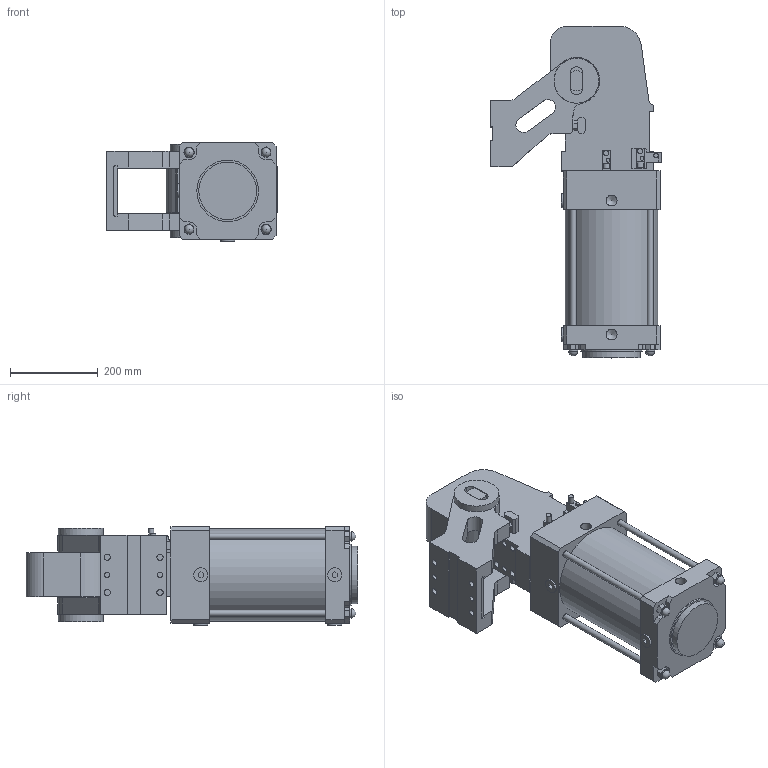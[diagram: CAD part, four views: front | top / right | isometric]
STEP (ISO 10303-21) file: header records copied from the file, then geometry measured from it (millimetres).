
FILE_DESCRIPTION(/* description */ (''),/* implementation_level */ '2;1');
FILE_NAME(/* name */ 'S:\Tom\INVENTOR FILES\AUTOMOTIVE\VEP\DUMP UNITS\C05.P015 RFM.2-RF.2\C05.P015 RFM.2-RF.2\RFM200\SATs\XPUZ200.2-129-1-ESL-P-G-X.stp',/* time_stamp */ '2018-07-29T18:18:26+01:00',/* author */ ('carl'),/* organization */ (''),/* preprocessor_version */ 'ST-DEVELOPER v16.13',/* originating_system */ 'Autodesk Inventor 2018',/* authorisation */ '');
FILE_SCHEMA (('AUTOMOTIVE_DESIGN { 1 0 10303 214 3 1 1 }'));
Length unit declared in the file: millimetre
Products named in the file (11): XPUZ200.2-129-1-ESL-P-G-X_TOP; XPUZ200; XPUZ200_1; XPUZ200_2; XPUZ200_3; XPUZ200_4; XPUZ200_5; XPUZ200_6; XPUZ200_7; XPUZ200_8; XPUZ200_9
Assembly tree (10 placements, depth 2):
  XPUZ200.2-129-1-ESL-P-G-X_TOP
    XPUZ200
    XPUZ200_1
    XPUZ200_2
    XPUZ200_3
    XPUZ200_4
    XPUZ200_5
    XPUZ200_6
    XPUZ200_7
    XPUZ200_8
    XPUZ200_9
Bounding box: 388 x 754.5 x 225 mm (x, y, z)
Volume: 25977209.9 mm3; surface area: 1069848.8 mm2
Topology: 10 solids, 10 shells, 412 faces, 1026 edges, 675 vertices
Faces by surface type: plane 284, cylinder 106, cone 18, sphere 4
Full cylindrical faces by diameter (mm): 5.5 x2, 8.5 x2, 10 x3, 10.2 x1, 11.8 x2, 12 x8, 13 x1, 14 x16, 18 x1, 21 x4, 24.5 x6, 26 x4, 32 x4, 45 x1, 50.5 x1, 60 x2, 102 x2, 131 x1, 140 x1, 210 x1
Entity records: 11949 total; most frequent: DIRECTION 1996, CARTESIAN_POINT 1991, ORIENTED_EDGE 1824, EDGE_CURVE 912, LINE 694, VECTOR 694, AXIS2_PLACEMENT_3D 651, VERTEX_POINT 646
